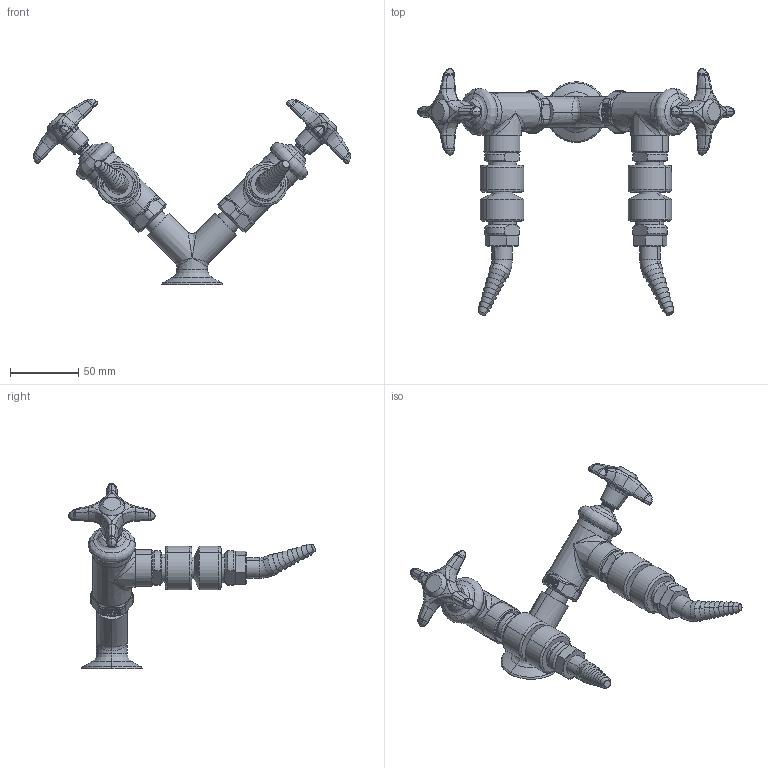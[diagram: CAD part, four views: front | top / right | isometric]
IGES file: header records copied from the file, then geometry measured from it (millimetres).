
Start section:  PTC IGES file: LWV2-C51-60.igs
Global section: file name: LWV2-C51-60.igs; native system: Creo Parametric by PTC Inc.; preprocessor: 2014500; author: usch_engrender; organization: Unknown; date: 20151118.124024; units: inch
Bounding box: 232.46 x 180.84 x 136.01 mm (x, y, z)
Volume: 272391.1 mm3; surface area: 60194.4 mm2
Topology: 1 solids, 6 shells, 1009 faces, 2298 edges, 1347 vertices
Faces by surface type: bspline 559, revolution 450
